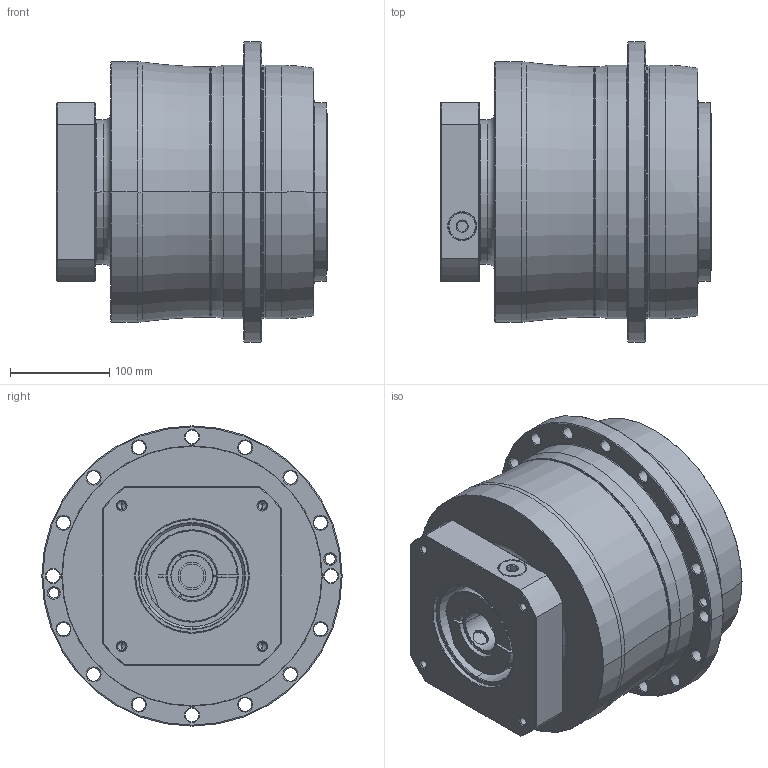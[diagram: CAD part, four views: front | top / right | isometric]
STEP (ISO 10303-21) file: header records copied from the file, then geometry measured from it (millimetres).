
FILE_DESCRIPTION((''),'2;1');
FILE_NAME('AH255_2ST_42-P0409A00101_ASM','2016-08-16T',('d01943'),(''),'PRO/ENGINEER BY PARAMETRIC TECHNOLOGY CORPORATION, 2008410','PRO/ENGINEER BY PARAMETRIC TECHNOLOGY CORPORATION, 2008410','');
FILE_SCHEMA(('CONFIG_CONTROL_DESIGN'));
Length unit declared in the file: millimetre
Products named in the file (8): P0278700003; P0359700003; P1317700301; P0409A00101; P0503A00012; P0912603001; 21711422019; AH255_2ST_42-P0409A00101_ASM
Assembly tree (7 placements, depth 2):
  AH255_2ST_42-P0409A00101_ASM
    P0278700003
    P0359700003
    P1317700301
    P0409A00101
    P0503A00012
    P0912603001
    21711422019
Bounding box: 272 x 302 x 302 mm (x, y, z)
Volume: 11701932.1 mm3; surface area: 755535.1 mm2
Topology: 8 solids, 8 shells, 582 faces, 1347 edges, 787 vertices
Faces by surface type: cylinder 220, cone 192, plane 96, torus 60, bspline 14
Entity records: 20877 total; most frequent: CARTESIAN_POINT 7359, DIRECTION 3061, ORIENTED_EDGE 2602, EDGE_CURVE 1301, AXIS2_PLACEMENT_3D 1289, VERTEX_POINT 787, CIRCLE 706, EDGE_LOOP 684
